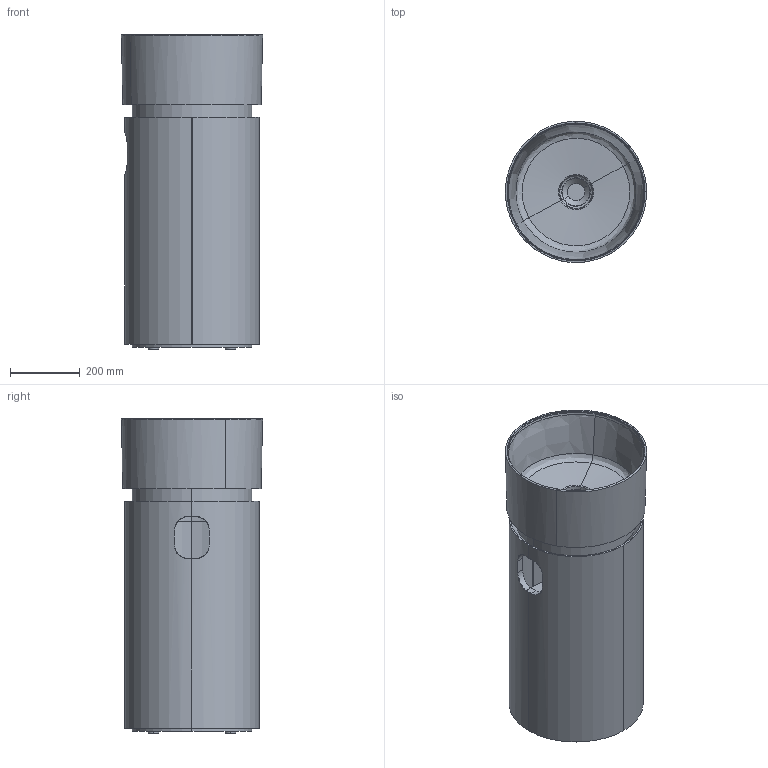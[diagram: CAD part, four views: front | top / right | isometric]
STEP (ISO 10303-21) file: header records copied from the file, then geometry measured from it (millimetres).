
FILE_DESCRIPTION(('CATIA V5 STEP Exchange'),'2;1');
FILE_NAME('C:\Users\167035\Downloads\schedatecnicamobilecontenitore\7342_7343_7344\3D_7342_7343_7344.stp','2025-10-10T10:08:35+00:00',('none'),('none'),'CATIA Version 5 Release 19 SP 5 (IN-10)','CATIA V5 STEP AP214','none');
FILE_SCHEMA(('AUTOMOTIVE_DESIGN { 1 0 10303 214 1 1 1 1 }'));
Length unit declared in the file: millimetre
Products named in the file (1): ART 7342_7343_7344_ Base Mobile LISCIO  Core 40
Bounding box: 403.62 x 403.48 x 900.32 mm (x, y, z)
Volume: 26602589.6 mm3; surface area: 3019004.9 mm2
Topology: 11 solids, 12 shells, 175 faces, 403 edges, 254 vertices
Faces by surface type: bspline 62, plane 56, cylinder 41, extrusion 8, cone 4, torus 4
Entity records: 11525 total; most frequent: CARTESIAN_POINT 8180, ORIENTED_EDGE 806, EDGE_CURVE 403, DIRECTION 365, VERTEX_POINT 254, B_SPLINE_CURVE_WITH_KNOTS 208, EDGE_LOOP 181, ADVANCED_FACE 175
